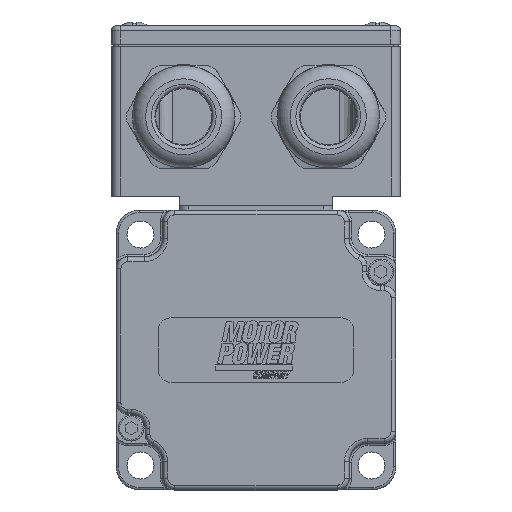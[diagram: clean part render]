
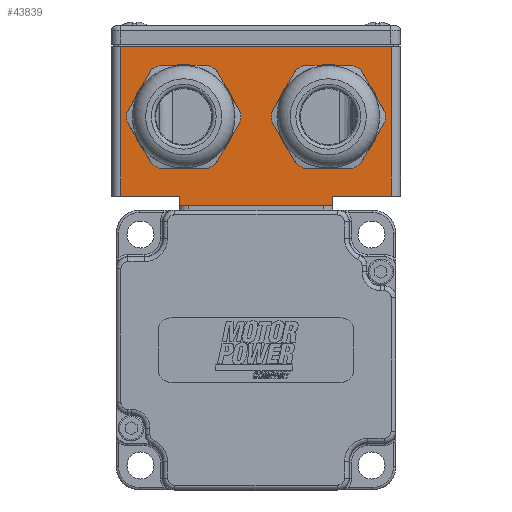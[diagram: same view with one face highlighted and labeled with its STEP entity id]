
A CAD part, front view. The second image highlights one B-rep face of the part: STEP entity #43839.
In plain terms, the highlighted planar face has unit normal (0, -1, 0) as drawn and (-1, 0, 0) by its records, which use the part's own axes.
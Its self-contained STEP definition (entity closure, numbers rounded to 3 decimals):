
#1482=PLANE('',#47447);
#3367=CIRCLE('',#47448,9.865);
#3368=CIRCLE('',#47449,9.865);
#13368=ORIENTED_EDGE('',*,*,#18625,.F.);
#13369=ORIENTED_EDGE('',*,*,#18626,.F.);
#13370=ORIENTED_EDGE('',*,*,#18530,.T.);
#13371=ORIENTED_EDGE('',*,*,#18627,.F.);
#13372=ORIENTED_EDGE('',*,*,#18628,.F.);
#13373=ORIENTED_EDGE('',*,*,#18629,.T.);
#13374=ORIENTED_EDGE('',*,*,#18541,.T.);
#13375=ORIENTED_EDGE('',*,*,#18607,.F.);
#13376=ORIENTED_EDGE('',*,*,#18630,.F.);
#13377=ORIENTED_EDGE('',*,*,#18623,.T.);
#18530=EDGE_CURVE('',#21980,#21978,#24770,.T.);
#18541=EDGE_CURVE('',#21986,#21990,#24776,.T.);
#18607=EDGE_CURVE('',#22052,#21990,#24805,.T.);
#18623=EDGE_CURVE('',#22061,#21980,#24818,.T.);
#18625=EDGE_CURVE('',#22062,#22062,#3367,.T.);
#18626=EDGE_CURVE('',#22063,#22063,#3368,.T.);
#18627=EDGE_CURVE('',#22064,#21978,#24819,.T.);
#18628=EDGE_CURVE('',#22065,#22064,#24820,.T.);
#18629=EDGE_CURVE('',#22065,#21986,#24821,.T.);
#18630=EDGE_CURVE('',#22061,#22052,#24822,.T.);
#21978=VERTEX_POINT('',#73336);
#21980=VERTEX_POINT('',#73339);
#21986=VERTEX_POINT('',#73352);
#21990=VERTEX_POINT('',#73360);
#22052=VERTEX_POINT('',#73495);
#22061=VERTEX_POINT('',#73526);
#22062=VERTEX_POINT('',#73530);
#22063=VERTEX_POINT('',#73532);
#22064=VERTEX_POINT('',#73534);
#22065=VERTEX_POINT('',#73536);
#24770=LINE('',#73338,#27482);
#24776=LINE('',#73361,#27488);
#24805=LINE('',#73494,#27517);
#24818=LINE('',#73525,#27530);
#24819=LINE('',#73533,#27531);
#24820=LINE('',#73535,#27532);
#24821=LINE('',#73537,#27533);
#24822=LINE('',#73538,#27534);
#27482=VECTOR('',#56913,1000.);
#27488=VECTOR('',#56931,1000.);
#27517=VECTOR('',#57046,1000.);
#27530=VECTOR('',#57077,1000.);
#27531=VECTOR('',#57086,1000.);
#27532=VECTOR('',#57087,1000.);
#27533=VECTOR('',#57088,1000.);
#27534=VECTOR('',#57089,1000.);
#30049=EDGE_LOOP('',(#13368));
#30050=EDGE_LOOP('',(#13369));
#30051=EDGE_LOOP('',(#13370,#13371,#13372,#13373,#13374,#13375,#13376,#13377));
#32699=FACE_BOUND('',#30049,.T.);
#32700=FACE_BOUND('',#30050,.T.);
#32701=FACE_BOUND('',#30051,.T.);
#43839=ADVANCED_FACE('',(#32699,#32700,#32701),#1482,.F.);
#47447=AXIS2_PLACEMENT_3D('',#73528,#57080,#57081);
#47448=AXIS2_PLACEMENT_3D('',#73529,#57082,#57083);
#47449=AXIS2_PLACEMENT_3D('',#73531,#57084,#57085);
#56913=DIRECTION('',(0.,-1.,0.));
#56931=DIRECTION('',(0.,-1.,0.));
#57046=DIRECTION('',(0.,0.,-1.));
#57077=DIRECTION('',(0.,0.,-1.));
#57080=DIRECTION('',(1.,0.,0.));
#57081=DIRECTION('',(0.,0.,-1.));
#57082=DIRECTION('',(-1.,0.,0.));
#57083=DIRECTION('',(0.,-1.,0.));
#57084=DIRECTION('',(-1.,0.,0.));
#57085=DIRECTION('',(0.,-1.,0.));
#57086=DIRECTION('',(0.,0.,1.));
#57087=DIRECTION('',(0.,1.,0.));
#57088=DIRECTION('',(0.,0.,1.));
#57089=DIRECTION('',(0.,-1.,0.));
#73336=CARTESIAN_POINT('',(-37.5,16.5,0.));
#73338=CARTESIAN_POINT('',(-37.5,29.,0.));
#73339=CARTESIAN_POINT('',(-37.5,29.,0.));
#73352=CARTESIAN_POINT('',(-37.5,-16.5,0.));
#73360=CARTESIAN_POINT('',(-37.5,-29.,0.));
#73361=CARTESIAN_POINT('',(-37.5,29.,0.));
#73494=CARTESIAN_POINT('',(-37.5,-29.,32.));
#73495=CARTESIAN_POINT('',(-37.5,-29.,32.));
#73525=CARTESIAN_POINT('',(-37.5,29.,32.));
#73526=CARTESIAN_POINT('',(-37.5,29.,32.));
#73528=CARTESIAN_POINT('',(-37.5,29.,32.));
#73529=CARTESIAN_POINT('',(-37.5,15.5,17.));
#73530=CARTESIAN_POINT('',(-37.5,5.635,17.));
#73531=CARTESIAN_POINT('',(-37.5,-15.5,17.));
#73532=CARTESIAN_POINT('',(-37.5,-25.365,17.));
#73533=CARTESIAN_POINT('',(-37.5,16.5,-2.));
#73534=CARTESIAN_POINT('',(-37.5,16.5,-2.));
#73535=CARTESIAN_POINT('',(-37.5,-16.5,-2.));
#73536=CARTESIAN_POINT('',(-37.5,-16.5,-2.));
#73537=CARTESIAN_POINT('',(-37.5,-16.5,-2.));
#73538=CARTESIAN_POINT('',(-37.5,29.,32.));
